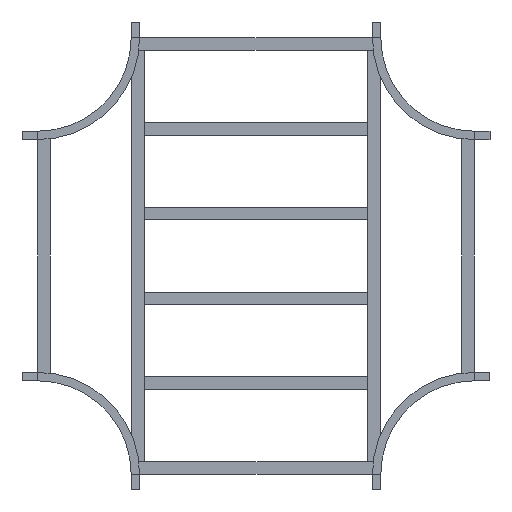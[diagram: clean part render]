
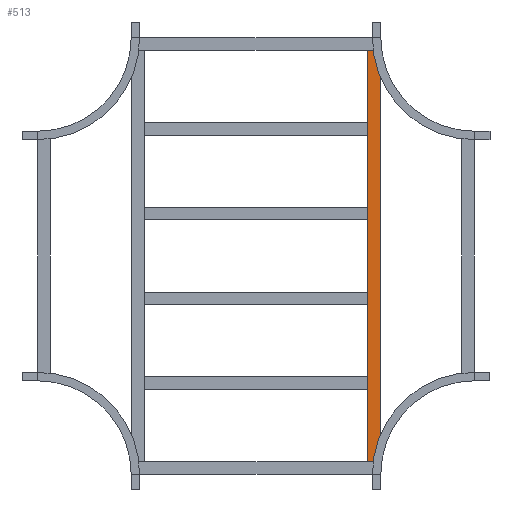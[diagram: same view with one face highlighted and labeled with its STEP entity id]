
A CAD part, front view. The second image highlights one B-rep face of the part: STEP entity #513.
In plain terms, the highlighted planar face has unit normal (0, -1, 0).
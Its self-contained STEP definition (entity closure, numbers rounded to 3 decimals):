
#25 = CARTESIAN_POINT ( 'NONE',  ( 659.5, 0., 20.25 ) ) ;
#29 = VERTEX_POINT ( 'NONE', #607 ) ;
#43 = AXIS2_PLACEMENT_3D ( 'NONE', #25, #679, #815 ) ;
#235 = FACE_OUTER_BOUND ( 'NONE', #597, .T. ) ;
#253 = ORIENTED_EDGE ( 'NONE', *, *, #865, .T. ) ;
#280 = EDGE_CURVE ( 'NONE', #949, #29, #935, .T. ) ;
#385 = CARTESIAN_POINT ( 'NONE',  ( 659.5, 0., 20.25 ) ) ;
#476 = ORIENTED_EDGE ( 'NONE', *, *, #646, .T. ) ;
#480 = PLANE ( 'NONE',  #43 ) ;
#513 = ADVANCED_FACE ( 'NONE', ( #235 ), #480, .F. ) ;
#597 = EDGE_LOOP ( 'NONE', ( #253, #781, #1383, #476 ) ) ;
#607 = CARTESIAN_POINT ( 'NONE',  ( 659.5, 0., -20.25 ) ) ;
#646 = EDGE_CURVE ( 'NONE', #949, #1306, #821, .T. ) ;
#678 = VERTEX_POINT ( 'NONE', #1187 ) ;
#679 = DIRECTION ( 'NONE',  ( 0., 1., 0. ) ) ;
#754 = DIRECTION ( 'NONE',  ( -1., 0., 0. ) ) ;
#781 = ORIENTED_EDGE ( 'NONE', *, *, #1143, .F. ) ;
#815 = DIRECTION ( 'NONE',  ( 0., 0., 1. ) ) ;
#821 = LINE ( 'NONE', #1370, #846 ) ;
#846 = VECTOR ( 'NONE', #1180, 1000. ) ;
#864 = CARTESIAN_POINT ( 'NONE',  ( 659.5, 0., -20.25 ) ) ;
#865 = EDGE_CURVE ( 'NONE', #1306, #678, #1355, .T. ) ;
#935 = LINE ( 'NONE', #385, #1007 ) ;
#949 = VERTEX_POINT ( 'NONE', #1374 ) ;
#967 = VECTOR ( 'NONE', #1342, 1000. ) ;
#1007 = VECTOR ( 'NONE', #1369, 1000. ) ;
#1081 = LINE ( 'NONE', #864, #1142 ) ;
#1124 = CARTESIAN_POINT ( 'NONE',  ( -659.5, 0., 20.25 ) ) ;
#1142 = VECTOR ( 'NONE', #754, 1000. ) ;
#1143 = EDGE_CURVE ( 'NONE', #29, #678, #1081, .T. ) ;
#1180 = DIRECTION ( 'NONE',  ( -1., 0., 0. ) ) ;
#1187 = CARTESIAN_POINT ( 'NONE',  ( -659.5, 0., -20.25 ) ) ;
#1243 = CARTESIAN_POINT ( 'NONE',  ( -659.5, 0., 20.25 ) ) ;
#1306 = VERTEX_POINT ( 'NONE', #1124 ) ;
#1342 = DIRECTION ( 'NONE',  ( 0., 0., -1. ) ) ;
#1355 = LINE ( 'NONE', #1243, #967 ) ;
#1369 = DIRECTION ( 'NONE',  ( 0., 0., -1. ) ) ;
#1370 = CARTESIAN_POINT ( 'NONE',  ( 659.5, 0., 20.25 ) ) ;
#1374 = CARTESIAN_POINT ( 'NONE',  ( 659.5, 0., 20.25 ) ) ;
#1383 = ORIENTED_EDGE ( 'NONE', *, *, #280, .F. ) ;
